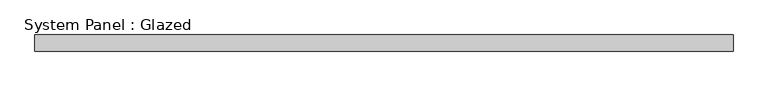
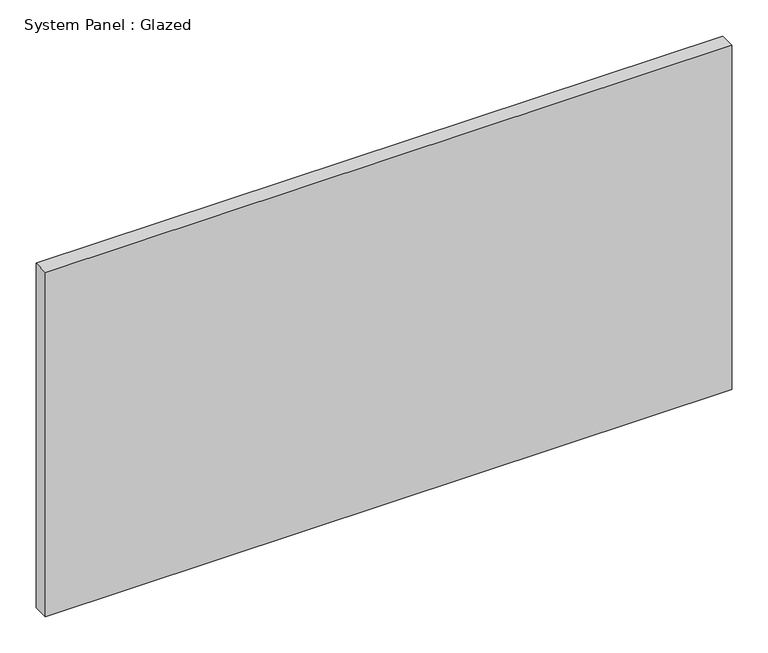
"""IFC4 building model written with IfcOpenShell, lengths in millimetres: plate geometry, System Panel : Glazed."""

from ifc_helpers import new_model, si_unit, origin, origin_with_axes, place, context, project, spatial, polyline, outline, extrude, source, transform, mapped, element, save


def system_panel_glazed_a1f64e1d(model_context):
    return source(origin(), model_context, "Body", "SweptSolid", [
        extrude(outline(polyline([(550.303141, 19.05), (-550.303141, 19.05), (-550.303141, 44.45), (550.303141, 44.45), (550.303141, 19.05)])), origin_with_axes(), (0.0, 0.0, 1.0), 584.2),
    ])


if __name__ == "__main__":
    model = new_model("IFC4")
    model_context = context("Model", 3, world=origin())
    ifc_project = project(units=[si_unit("LENGTHUNIT", "METRE", prefix="MILLI")], contexts=[model_context])
    site = spatial("IfcSite", under=ifc_project)
    building = spatial("IfcBuilding", under=site)
    placement = place(None, origin())
    system_panel_glazed_shape = system_panel_glazed_a1f64e1d(model_context)
    element("IfcPlate", 1, ObjectType="System Panel : Glazed", at=placement, inside=building, context=model_context, shape_type="MappedRepresentation", body=[
        mapped(system_panel_glazed_shape, transform((0.0, 0.0, 0.0), x_axis=(1.0, 0.0, 0.0), y_axis=(0.0, 1.0, 0.0), z_axis=(0.0, 0.0, 1.0))),
    ])
    save(model, "model.ifc")
